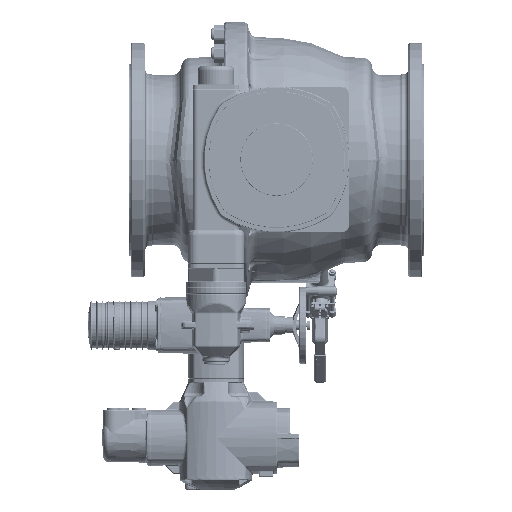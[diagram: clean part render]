
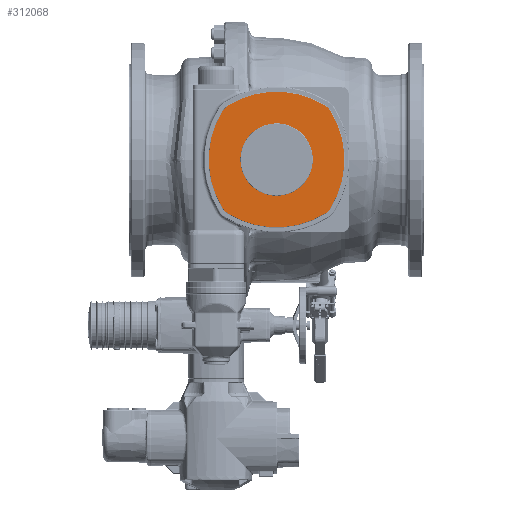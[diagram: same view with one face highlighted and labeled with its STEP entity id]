
A CAD part, top view. The second image highlights one B-rep face of the part: STEP entity #312068.
In plain terms, the highlighted planar face has unit normal (0, 0, 1).
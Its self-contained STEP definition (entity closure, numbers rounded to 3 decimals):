
#253833=CARTESIAN_POINT('',(0.,-50.,173.));
#253834=DIRECTION('',(0.,0.,-1.));
#253835=DIRECTION('',(-0.533,0.846,0.));
#253836=AXIS2_PLACEMENT_3D('',#253833,#253834,#253835);
#253847=CARTESIAN_POINT('',(85.34,85.34,173.));
#253848=DIRECTION('',(0.,0.,1.));
#253849=DIRECTION('',(0.846,0.533,0.));
#253850=AXIS2_PLACEMENT_3D('',#253847,#253848,#253849);
#253861=CARTESIAN_POINT('',(-50.,0.,173.));
#253862=DIRECTION('',(0.,0.,-1.));
#253863=DIRECTION('',(0.846,0.533,0.));
#253864=AXIS2_PLACEMENT_3D('',#253861,#253862,#253863);
#253875=CARTESIAN_POINT('',(85.34,-85.34,173.));
#253876=DIRECTION('',(0.,0.,1.));
#253877=DIRECTION('',(0.533,-0.846,0.));
#253878=AXIS2_PLACEMENT_3D('',#253875,#253876,#253877);
#253889=CARTESIAN_POINT('',(0.,50.,173.));
#253890=DIRECTION('',(0.,0.,-1.));
#253891=DIRECTION('',(0.533,-0.846,0.));
#253892=AXIS2_PLACEMENT_3D('',#253889,#253890,#253891);
#253903=CARTESIAN_POINT('',(-85.34,-85.34,173.));
#253904=DIRECTION('',(0.,0.,1.));
#253905=DIRECTION('',(-0.846,-0.533,0.));
#253906=AXIS2_PLACEMENT_3D('',#253903,#253904,#253905);
#253917=CARTESIAN_POINT('',(50.,0.,173.));
#253918=DIRECTION('',(0.,0.,-1.));
#253919=DIRECTION('',(-0.846,-0.533,0.));
#253920=AXIS2_PLACEMENT_3D('',#253917,#253918,#253919);
#253931=CARTESIAN_POINT('',(-85.34,85.34,173.));
#253932=DIRECTION('',(0.,0.,1.));
#253933=DIRECTION('',(-0.533,0.846,0.));
#253934=AXIS2_PLACEMENT_3D('',#253931,#253932,#253933);
#253936=CARTESIAN_POINT('',(0.,0.,173.));
#253937=DIRECTION('',(0.,0.,1.));
#253938=DIRECTION('',(-1.,0.,0.));
#253939=AXIS2_PLACEMENT_3D('',#253936,#253937,#253938);
#253941=CARTESIAN_POINT('',(0.,0.,173.));
#253942=DIRECTION('',(0.,0.,1.));
#253943=DIRECTION('',(1.,0.,0.));
#253944=AXIS2_PLACEMENT_3D('',#253941,#253942,#253943);
#301804=CARTESIAN_POINT('',(-75.,0.,173.));
#301805=CARTESIAN_POINT('',(75.,0.,173.));
#301806=VERTEX_POINT('',#301804);
#301807=VERTEX_POINT('',#301805);
#301808=CARTESIAN_POINT('',(101.342,-110.717,173.));
#301809=CARTESIAN_POINT('',(110.717,-101.342,173.));
#301810=VERTEX_POINT('',#301808);
#301811=VERTEX_POINT('',#301809);
#301812=CARTESIAN_POINT('',(110.717,101.342,173.));
#301813=VERTEX_POINT('',#301812);
#301814=CARTESIAN_POINT('',(101.342,110.717,173.));
#301815=VERTEX_POINT('',#301814);
#301816=CARTESIAN_POINT('',(-101.342,110.717,173.));
#301817=VERTEX_POINT('',#301816);
#301818=CARTESIAN_POINT('',(-110.717,101.342,173.));
#301819=VERTEX_POINT('',#301818);
#301820=CARTESIAN_POINT('',(-110.717,-101.342,173.));
#301821=VERTEX_POINT('',#301820);
#301822=CARTESIAN_POINT('',(-101.342,-110.717,173.));
#301823=VERTEX_POINT('',#301822);
#312047=CARTESIAN_POINT('',(0.,0.,173.));
#312048=DIRECTION('',(0.,0.,1.));
#312049=DIRECTION('',(1.,0.,0.));
#312050=AXIS2_PLACEMENT_3D('',#312047,#312048,#312049);
#312051=PLANE('',#312050);
#312052=ORIENTED_EDGE('',*,*,#311986,.F.);
#312053=ORIENTED_EDGE('',*,*,#312000,.T.);
#312054=ORIENTED_EDGE('',*,*,#312014,.F.);
#312055=ORIENTED_EDGE('',*,*,#312028,.T.);
#312056=ORIENTED_EDGE('',*,*,#312041,.F.);
#312057=ORIENTED_EDGE('',*,*,#311943,.T.);
#312058=ORIENTED_EDGE('',*,*,#311958,.F.);
#312059=ORIENTED_EDGE('',*,*,#311972,.T.);
#312060=EDGE_LOOP('',(#312052,#312053,#312054,#312055,#312056,#312057,#312058,
#312059));
#312061=FACE_OUTER_BOUND('',#312060,.F.);
#312063=ORIENTED_EDGE('',*,*,#312062,.T.);
#312065=ORIENTED_EDGE('',*,*,#312064,.T.);
#312066=EDGE_LOOP('',(#312063,#312065));
#312067=FACE_BOUND('',#312066,.F.);
#312068=ADVANCED_FACE('',(#312061,#312067),#312051,.T.);
#253837=CIRCLE('',#253836,190.);
#253851=CIRCLE('',#253850,30.);
#253865=CIRCLE('',#253864,190.);
#253879=CIRCLE('',#253878,30.);
#253893=CIRCLE('',#253892,190.);
#253907=CIRCLE('',#253906,30.);
#253921=CIRCLE('',#253920,190.);
#253935=CIRCLE('',#253934,30.);
#253940=CIRCLE('',#253939,75.);
#253945=CIRCLE('',#253944,75.);
#311943=EDGE_CURVE('',#301817,#301815,#253837,.T.);
#311958=EDGE_CURVE('',#301813,#301815,#253851,.T.);
#311972=EDGE_CURVE('',#301813,#301811,#253865,.T.);
#311986=EDGE_CURVE('',#301810,#301811,#253879,.T.);
#312000=EDGE_CURVE('',#301810,#301823,#253893,.T.);
#312014=EDGE_CURVE('',#301821,#301823,#253907,.T.);
#312028=EDGE_CURVE('',#301821,#301819,#253921,.T.);
#312041=EDGE_CURVE('',#301817,#301819,#253935,.T.);
#312062=EDGE_CURVE('',#301806,#301807,#253940,.T.);
#312064=EDGE_CURVE('',#301807,#301806,#253945,.T.);
